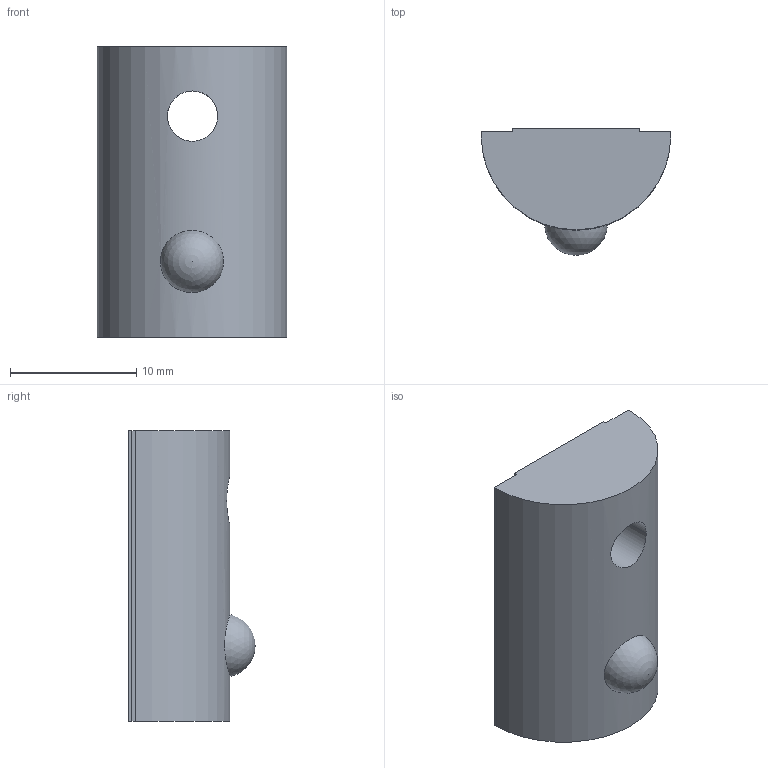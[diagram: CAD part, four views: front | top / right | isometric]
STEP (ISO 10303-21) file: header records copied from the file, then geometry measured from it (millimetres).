
FILE_DESCRIPTION (( 'STEP AP203' ), '1' );
FILE_NAME ('5059.STEP', '2017-02-02T09:07:07', ( 'RosInstal-MKM' ), ( '' ), 'SwSTEP 2.0', 'SolidWorks 2014', '' );
FILE_SCHEMA (( 'CONFIG_CONTROL_DESIGN' ));
Length unit declared in the file: millimetre
Products named in the file (1): 5059
Bounding box: 15.01 x 9.99 x 23 mm (x, y, z)
Volume: 2078.6 mm3; surface area: 1219.4 mm2
Topology: 1 solids, 2 shells, 17 faces, 45 edges, 31 vertices
Faces by surface type: plane 8, cylinder 5, cone 2, sphere 2
Entity records: 689 total; most frequent: CARTESIAN_POINT 204, DIRECTION 86, ORIENTED_EDGE 80, EDGE_CURVE 40, AXIS2_PLACEMENT_3D 32, VERTEX_POINT 28, LINE 22, VECTOR 22
